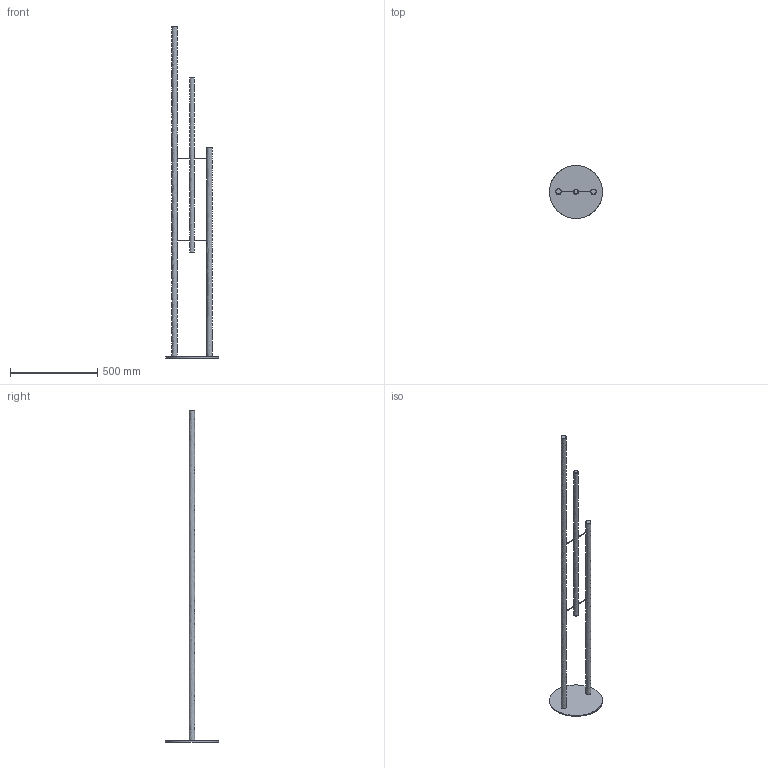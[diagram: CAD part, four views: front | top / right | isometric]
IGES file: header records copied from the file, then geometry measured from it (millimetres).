
Global section: file name: /Users/mostera/Desktop/MA_TA-KE_2_240-120V-2022.igs; native system: Rhinoceros ( Jul 27 2022 ); preprocessor: Trout Lake IGES 012 Jul 27 2022; date: 220825.141351; units: millimetre
Bounding box: 303.44 x 303.44 x 1900 mm (x, y, z)
Surface area: 533471.9 mm2 (no closed solid volume)
Topology: 0 solids, 0 shells, 15 faces, 526 edges, 512 vertices
Faces by surface type: bspline 15
